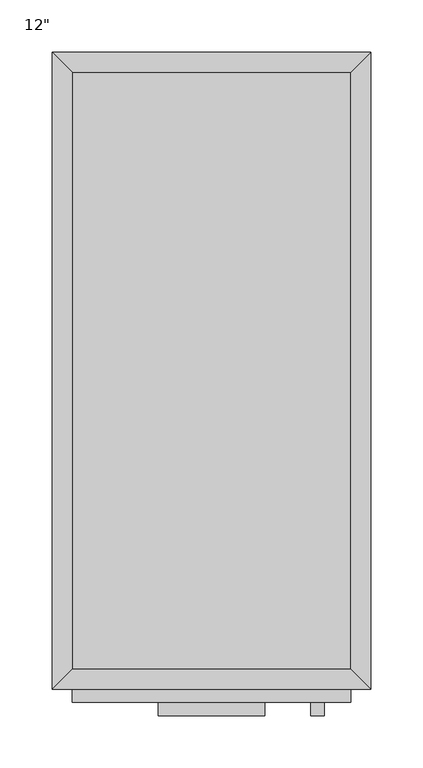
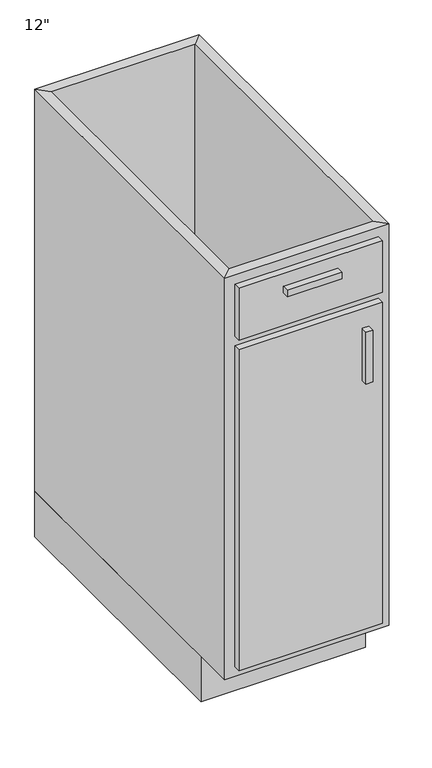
"""IFC4 building model written with IfcOpenShell, lengths in millimetres: furniture geometry."""

from ifc_helpers import new_model, si_unit, frame, origin, origin_with_axes, place, context, project, spatial, polyline, outline, extrude, faceted_brep, source, transform, mapped, element, save


def furniture_f1e63d7b(model_context):
    return source(origin(), model_context, "Body", "SolidModel", [
        extrude(outline(polyline([(126.6877049, -635.0), (113.9877049, -635.0), (113.9877049, -622.3), (126.6877049, -622.3), (126.6877049, -635.0)])), frame((0.0, 0.0, 596.9), z_axis=(0.0, 0.0, 1.0), x_axis=(1.0, 0.0, 0.0)), (0.0, 0.0, 1.0), 101.6),
        extrude(outline(polyline([(69.5377049, -635.0), (-32.0622951, -635.0), (-32.0622951, -622.3), (69.5377049, -622.3), (69.5377049, -635.0)])), frame((0.0, 0.0, 819.15), z_axis=(0.0, 0.0, 1.0), x_axis=(1.0, 0.0, 0.0)), (0.0, 0.0, 1.0), 12.7),
        extrude(outline(polyline([(152.0877049, -622.3), (-114.6122951, -622.3), (-114.6122951, -609.6), (152.0877049, -609.6), (152.0877049, -622.3)])), frame((0.0, 0.0, 107.95), z_axis=(0.0, 0.0, 1.0), x_axis=(1.0, 0.0, 0.0)), (0.0, 0.0, 1.0), 628.65),
        extrude(outline(polyline([(152.0877049, -622.3), (-114.6122951, -622.3), (-114.6122951, -609.6), (152.0877049, -609.6), (152.0877049, -622.3)])), frame((0.0, 0.0, 755.65), z_axis=(0.0, 0.0, 1.0), x_axis=(1.0, 0.0, 0.0)), (0.0, 0.0, 1.0), 101.6),
        extrude(outline(polyline([(152.0877049, -19.05), (152.0877049, -590.55), (-114.6122951, -590.55), (-114.6122951, -19.05), (152.0877049, -19.05)])), frame((0.0, 0.0, 88.9), z_axis=(0.0, 0.0, 1.0), x_axis=(1.0, 0.0, 0.0)), (0.0, 0.0, 1.0), 19.05),
        faceted_brep([(152.0877049, -590.55, 876.3), (152.0877049, -590.55, 88.9), (-114.6122951, -590.55, 88.9), (-114.6122951, -590.55, 876.3), (171.1377049, -609.6, 876.3), (-133.6622951, -609.6, 876.3), (171.1377049, -609.6, 88.9), (-133.6622951, -609.6, 88.9), (-114.6122951, -19.05, 88.9), (-114.6122951, -19.05, 876.3), (-133.6622951, 0.0, 876.3), (-133.6622951, 0.0, 88.9), (152.0877049, -19.05, 88.9), (152.0877049, -19.05, 876.3), (171.1377049, 0.0, 876.3), (171.1377049, 0.0, 88.9)], [[[0, 1, 2, 3]], [[4, 0, 3, 5]], [[6, 4, 5, 7]], [[1, 6, 7, 2]], [[3, 2, 8, 9]], [[5, 3, 9, 10]], [[7, 5, 10, 11]], [[2, 7, 11, 8]], [[9, 8, 12, 13]], [[10, 9, 13, 14]], [[11, 10, 14, 15]], [[8, 11, 15, 12]], [[13, 12, 1, 0]], [[14, 13, 0, 4]], [[15, 14, 4, 6]], [[12, 15, 6, 1]]]),
        extrude(outline(polyline([(171.1377049, 0.0), (171.1377049, -533.4), (-133.6622951, -533.4), (-133.6622951, 0.0), (171.1377049, 0.0)])), origin_with_axes(), (0.0, 0.0, 1.0), 88.9),
    ])


if __name__ == "__main__":
    model = new_model("IFC4")
    model_context = context("Model", 3, world=origin())
    ifc_project = project(units=[si_unit("LENGTHUNIT", "METRE", prefix="MILLI")], contexts=[model_context])
    site = spatial("IfcSite", under=ifc_project)
    building = spatial("IfcBuilding", under=site)
    placement = place(None, origin())
    furniture_shape = furniture_f1e63d7b(model_context)
    element("IfcFurniture", 1, ObjectType="Base Cabinet-Single Door & Drawer : 12\"", at=placement, inside=building, context=model_context, shape_type="MappedRepresentation", body=[
        mapped(furniture_shape, transform((0.0, 0.0, 0.0), x_axis=(1.0, 0.0, 0.0), y_axis=(0.0, 1.0, 0.0), z_axis=(0.0, 0.0, 1.0))),
    ])
    save(model, "model.ifc")
